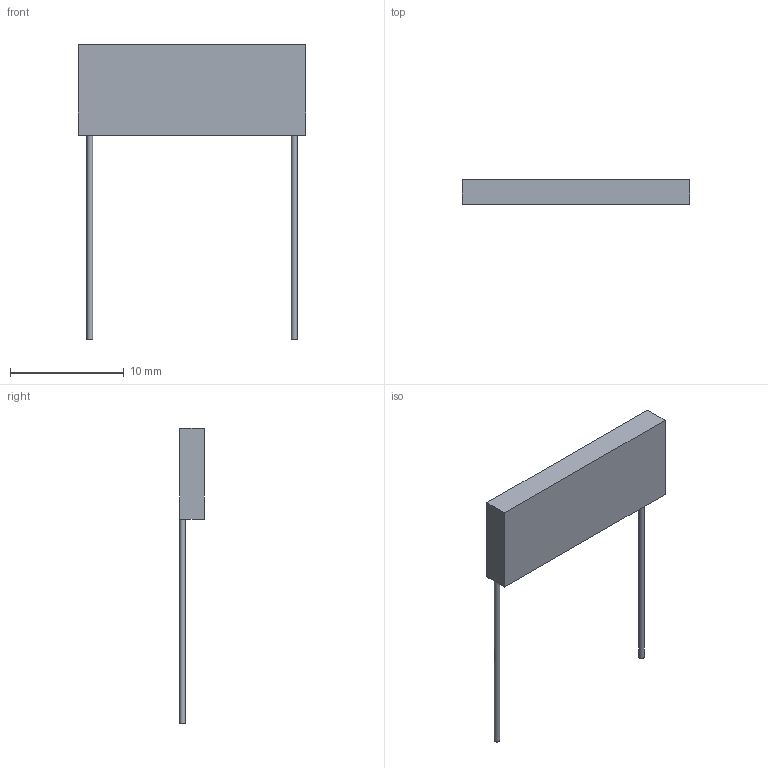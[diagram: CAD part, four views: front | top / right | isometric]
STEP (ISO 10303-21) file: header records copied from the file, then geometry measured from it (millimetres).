
FILE_DESCRIPTION(('STEP AP203'), '1');
FILE_NAME('R1-35-1-3', '', ('UNSPECIFIED'), ('UNSPECIFIED'), 'ASCON STEP Converter 1.6', 'ASCON Math Kernel', '');
FILE_SCHEMA(('CONFIG_CONTROL_DESIGN'));
Length unit declared in the file: millimetre
Bounding box: 20 x 2.2 x 26 mm (x, y, z)
Volume: 359.1 mm3; surface area: 499.7 mm2
Topology: 1 solids, 1 shells, 10 faces, 22 edges, 14 vertices
Faces by surface type: plane 8, cylinder 2
Full cylindrical faces by diameter (mm): 0.5 x2
Entity records: 390 total; most frequent: DIRECTION 48, CARTESIAN_POINT 45, ORIENTED_EDGE 40, EDGE_CURVE 20, AXIS2_PLACEMENT_3D 17, VERTEX_POINT 14, LINE 14, VECTOR 14
